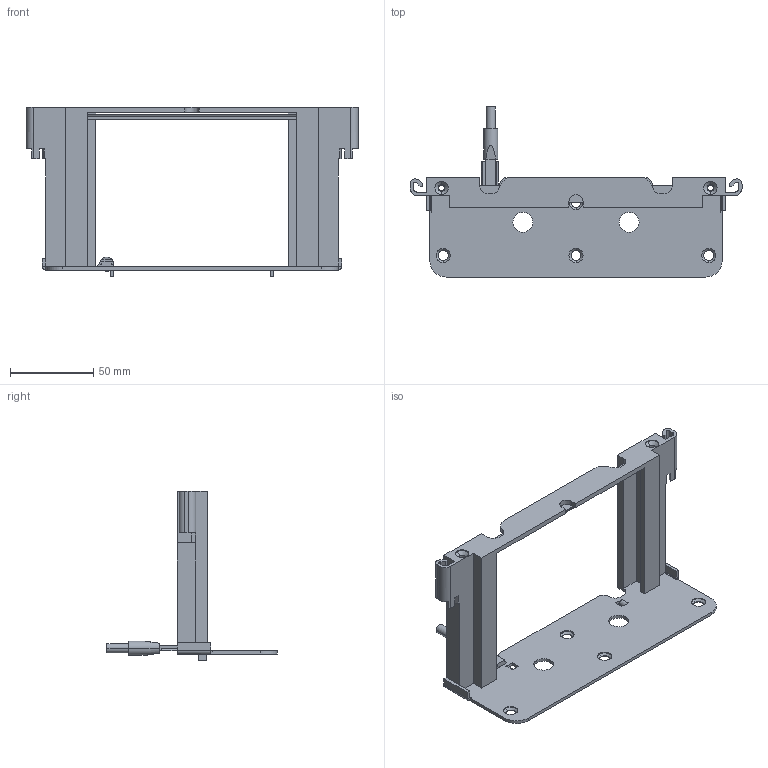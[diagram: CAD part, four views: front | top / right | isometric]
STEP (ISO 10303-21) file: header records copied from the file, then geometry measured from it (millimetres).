
FILE_DESCRIPTION (( 'STEP AP214' ), '1' );
FILE_NAME ('Bodenmontageset - F121100271207.step', '2010-10-18T11:27:48', ( 'grass' ), ( '' ), 'SwSTEP 2.0', 'SolidWorks 2010', '' );
FILE_SCHEMA (( 'AUTOMOTIVE_DESIGN' ));
Length unit declared in the file: millimetre
Products named in the file (1): Bodenmontageset - F121100271207
Bounding box: 200 x 102.5 x 101.94 mm (x, y, z)
Volume: 93576 mm3; surface area: 57822.1 mm2
Topology: 1 solids, 1 shells, 272 faces, 730 edges, 462 vertices
Faces by surface type: plane 179, cylinder 77, cone 16
Entity records: 8476 total; most frequent: CARTESIAN_POINT 1471, ORIENTED_EDGE 1460, DIRECTION 1438, EDGE_CURVE 730, LINE 564, VECTOR 564, VERTEX_POINT 462, AXIS2_PLACEMENT_3D 437
